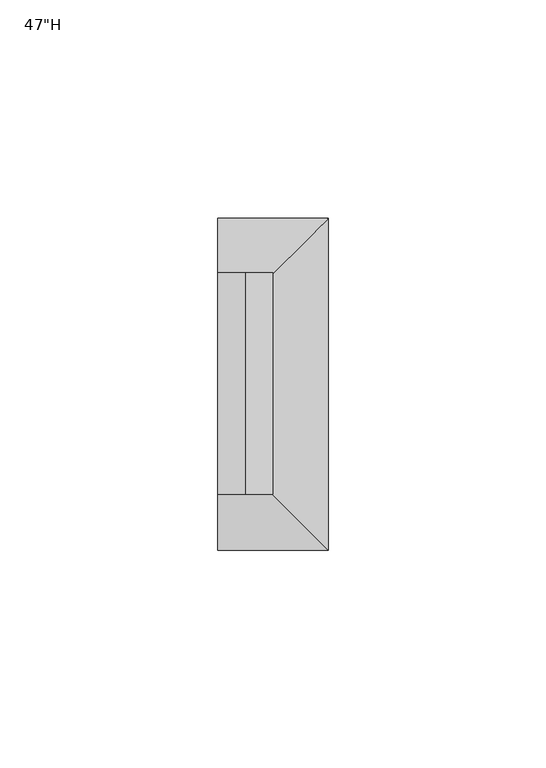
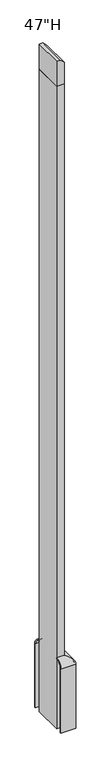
"""IFC4 building model written with IfcOpenShell, lengths in millimetres: furniture geometry."""

from ifc_helpers import new_model, si_unit, frame, origin, place, context, project, spatial, polyline, circle_curve, ellipse_curve, outline, extrude, source, transform, mapped, element, save
from ifc_brep_helpers import plane_surface, cylinder_surface, revolved_surface, advanced_brep


def furniture_cbf60e6f(model_context):
    return source(origin(), model_context, "Body", "SolidModel", [
        extrude(outline(polyline([(1158.875, 1984.8560512), (1158.875, 1997.5560512), (1196.975, 1997.5560512), (1203.325, 1991.2060512), (1203.325, 1984.8560512), (1158.875, 1984.8560512)])), frame((0.0, -2474.1387877, 0.0), z_axis=(0.0, 1.0, 0.0), x_axis=(0.0, 0.0, 1.0)), (0.0, 0.0, 1.0), 50.8),
        advanced_brep(
        [(1984.8560512, -2410.6387877, 123.825), (1984.8560512, -2410.6387877, 9.525), (1984.8560512, -2412.2262877, 9.525), (1984.8560512, -2412.2262877, 123.825), (1984.8560512, -2423.3387877, 134.9375), (1984.8560512, -2423.3387877, 136.525), (2010.2560512, -2410.6387877, 123.825), (2010.2560512, -2410.6387877, 9.525), (2010.2560512, -2486.8387877, 9.525), (1984.8560512, -2486.8387877, 9.525), (1984.8560512, -2485.2512877, 9.525), (2008.6685512, -2485.2512877, 9.525), (2008.6685512, -2412.2262877, 9.525), (2008.6685512, -2412.2262877, 123.825), (1997.5560512, -2423.3387877, 134.9375), (1997.5560512, -2423.3387877, 136.525), (2010.2560512, -2486.8387877, 123.825), (2008.6685512, -2485.2512877, 123.825), (1997.5560512, -2474.1387877, 134.9375), (1997.5560512, -2474.1387877, 136.525), (1984.8560512, -2486.8387877, 123.825), (1984.8560512, -2474.1387877, 136.525), (1984.8560512, -2474.1387877, 134.9375), (1984.8560512, -2485.2512877, 123.825)],
        [
            (0, 1),
            (1, 2),
            (2, 3),
            (3, 4, circle_curve(frame((1984.8560512, -2423.3387877, 123.825), z_axis=(1.0, 0.0, 0.0), x_axis=(0.0, 1.0, 0.0)), 11.1125)),
            (4, 5),
            (5, 0, circle_curve(frame((1984.8560512, -2423.3387877, 123.825), z_axis=(-1.0, 0.0, 0.0), x_axis=(0.0, 1.0, 0.0)), 12.7)),
            (0, 6),
            (6, 7),
            (7, 1),
            (7, 8),
            (8, 9),
            (9, 10),
            (10, 11),
            (11, 12),
            (12, 2),
            (12, 13),
            (13, 3),
            (13, 14, ellipse_curve(frame((1997.5560512, -2423.3387877, 123.825), z_axis=(0.7071067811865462, -0.7071067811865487, 0.0), x_axis=(0.7071067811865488, 0.7071067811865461, 0.0)), 15.7154482, 11.1125)),
            (14, 4),
            (14, 15),
            (15, 5),
            (15, 6, ellipse_curve(frame((1997.5560512, -2423.3387877, 123.825), z_axis=(-0.7071067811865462, 0.7071067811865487, 0.0), x_axis=(-0.7071067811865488, -0.7071067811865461, 0.0)), 17.9605122, 12.7)),
            (6, 16),
            (16, 8),
            (11, 17),
            (17, 13),
            (17, 18, ellipse_curve(frame((1997.5560512, -2474.1387877, 123.825), z_axis=(-0.7071067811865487, -0.7071067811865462, 0.0), x_axis=(0.7071067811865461, -0.7071067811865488, 0.0)), 15.7154482, 11.1125)),
            (18, 14),
            (18, 19),
            (19, 15),
            (19, 16, ellipse_curve(frame((1997.5560512, -2474.1387877, 123.825), z_axis=(0.7071067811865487, 0.7071067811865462, 0.0), x_axis=(-0.7071067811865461, 0.7071067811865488, 0.0)), 17.9605122, 12.7)),
            (20, 21, circle_curve(frame((1984.8560512, -2474.1387877, 123.825), z_axis=(-1.0, 0.0, 0.0), x_axis=(0.0, -1.0, 0.0)), 12.7)),
            (21, 22),
            (22, 23, circle_curve(frame((1984.8560512, -2474.1387877, 123.825), z_axis=(1.0, 0.0, 0.0), x_axis=(0.0, -1.0, 0.0)), 11.1125)),
            (23, 10),
            (9, 20),
            (16, 20),
            (23, 17),
            (22, 18),
            (21, 19),
        ],
        [
            plane_surface(frame((1984.8560512, -2423.3387877, 136.525), z_axis=(-1.0, 0.0, 0.0), x_axis=(0.0, 0.0, 1.0))),
            plane_surface(frame((1984.8560512, -2410.6387877, 123.825), z_axis=(0.0, 1.0, 0.0), x_axis=(1.0, 0.0, 0.0))),
            plane_surface(frame((1984.8560512, -2410.6387877, 9.525), z_axis=(0.0, 0.0, -1.0), x_axis=(1.0, 0.0, 0.0))),
            plane_surface(frame((1984.8560512, -2412.2262877, 9.525), z_axis=(0.0, -1.0, 0.0), x_axis=(1.0, 0.0, 0.0))),
            revolved_surface(polyline([(2008.6685512, -2412.2262877, 123.825), (1984.8560512, -2412.2262877, 123.825)]), (1984.8560512, -2423.3387877, 123.825), (1.0, 0.0, 0.0)),
            plane_surface(frame((1984.8560512, -2423.3387877, 134.9375), z_axis=(0.0, -1.0, 0.0), x_axis=(1.0, 0.0, 0.0))),
            cylinder_surface(frame((1984.8560512, -2423.3387877, 123.825), z_axis=(-1.0, 0.0, 0.0), x_axis=(0.0, 1.0, 0.0)), 12.7),
            plane_surface(frame((2010.2560512, -2410.6387877, 123.825), z_axis=(1.0, 0.0, 0.0), x_axis=(0.0, -1.0, 0.0))),
            plane_surface(frame((2008.6685512, -2412.2262877, 9.525), z_axis=(-1.0, 0.0, 0.0), x_axis=(0.0, -1.0, 0.0))),
            revolved_surface(polyline([(2008.6685512, -2485.2512877, 123.825), (2008.6685512, -2412.2262877, 123.825)]), (1997.5560512, -2423.3387877, 123.825), (0.0, -1.0, 0.0)),
            plane_surface(frame((1997.5560512, -2423.3387877, 134.9375), z_axis=(-1.0, 0.0, 0.0), x_axis=(0.0, -1.0, 0.0))),
            cylinder_surface(frame((1997.5560512, -2423.3387877, 123.825), z_axis=(0.0, 1.0, 0.0), x_axis=(1.0, 0.0, 0.0)), 12.7),
            plane_surface(frame((1984.8560512, -2474.1387877, 136.525), z_axis=(-1.0, 0.0, 0.0), x_axis=(0.0, 0.0, 1.0))),
            plane_surface(frame((2010.2560512, -2486.8387877, 123.825), z_axis=(0.0, -1.0, 0.0), x_axis=(-1.0, 0.0, 0.0))),
            plane_surface(frame((2008.6685512, -2485.2512877, 9.525), z_axis=(0.0, 1.0, 0.0), x_axis=(-1.0, 0.0, 0.0))),
            revolved_surface(polyline([(1984.8560512, -2485.2512877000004, 123.825), (2008.6685512, -2485.2512877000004, 123.825)]), (1997.5560512, -2474.1387877, 123.825), (-1.0, 0.0, 0.0)),
            plane_surface(frame((1997.5560512, -2474.1387877, 134.9375), z_axis=(0.0, 1.0, 0.0), x_axis=(-1.0, 0.0, 0.0))),
            cylinder_surface(frame((1997.5560512, -2474.1387877, 123.825), z_axis=(1.0, 0.0, 0.0), x_axis=(0.0, -1.0, 0.0)), 12.7),
        ],
        [
            (0, [[1, 2, 3, 4, 5, 6]]),
            (1, [[-1, 7, 8, 9]]),
            (2, [[-2, -9, 10, 11, 12, 13, 14, 15]]),
            (3, [[-3, -15, 16, 17]]),
            (4, [[-4, -17, 18, 19]]),
            (5, [[-5, -19, 20, 21]]),
            (6, [[-6, -21, 22, -7]]),
            (7, [[-8, 23, 24, -10]]),
            (8, [[-16, -14, 25, 26]]),
            (9, [[-18, -26, 27, 28]]),
            (10, [[-20, -28, 29, 30]]),
            (11, [[-22, -30, 31, -23]]),
            (12, [[32, 33, 34, 35, -12, 36]]),
            (13, [[-24, 37, -36, -11]]),
            (14, [[-25, -13, -35, 38]]),
            (15, [[-27, -38, -34, 39]]),
            (16, [[-29, -39, -33, 40]]),
            (17, [[-31, -40, -32, -37]]),
        ],
    ),
        extrude(outline(polyline([(1984.8560512, -2474.1387877), (1984.8560512, -2423.3387877), (1997.5560512, -2423.3387877), (1997.5560512, -2474.1387877), (1984.8560512, -2474.1387877)])), frame((0.0, 0.0, 9.525), z_axis=(0.0, 0.0, 1.0), x_axis=(1.0, 0.0, 0.0)), (0.0, 0.0, 1.0), 1149.35),
    ])


if __name__ == "__main__":
    model = new_model("IFC4")
    model_context = context("Model", 3, world=origin())
    ifc_project = project(units=[si_unit("LENGTHUNIT", "METRE", prefix="MILLI")], contexts=[model_context])
    site = spatial("IfcSite", under=ifc_project)
    building = spatial("IfcBuilding", under=site)
    placement = place(None, origin())
    furniture_shape = furniture_cbf60e6f(model_context)
    element("IfcFurniture", 1, ObjectType="HermanMiller_ActionOffice_A1271_FinishedEndStandardBase : 47\"H", at=placement, inside=building, context=model_context, shape_type="MappedRepresentation", body=[
        mapped(furniture_shape, transform((0.0, 0.0, 0.0), x_axis=(1.0, 0.0, 0.0), y_axis=(0.0, 1.0, 0.0), z_axis=(0.0, 0.0, 1.0))),
    ])
    save(model, "model.ifc")
